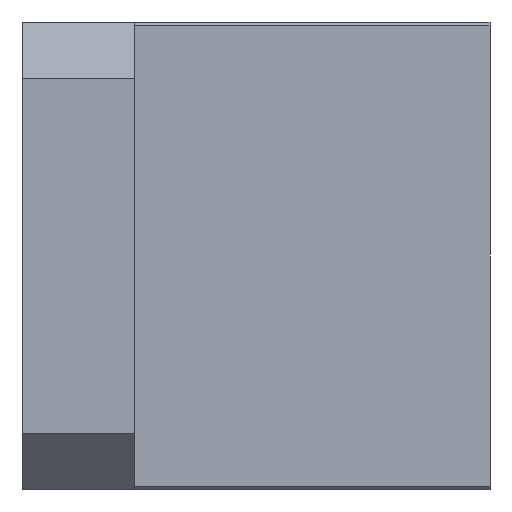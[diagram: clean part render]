
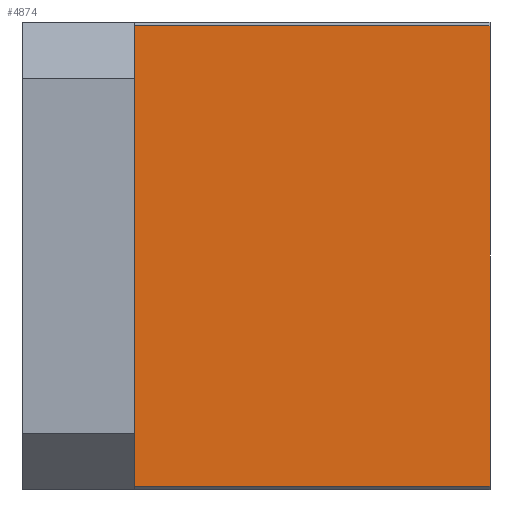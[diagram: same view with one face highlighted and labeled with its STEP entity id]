
A CAD part, left-side view. The second image highlights one B-rep face of the part: STEP entity #4874.
In plain terms, the highlighted planar face has unit normal (-1, 0, 0).
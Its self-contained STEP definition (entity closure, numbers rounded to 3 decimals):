
#356 = VERTEX_POINT ( 'NONE', #808 ) ;
#443 = VERTEX_POINT ( 'NONE', #10985 ) ;
#453 = ORIENTED_EDGE ( 'NONE', *, *, #6781, .T. ) ;
#502 = DIRECTION ( 'NONE',  ( 1., 0., 0. ) ) ;
#648 = DIRECTION ( 'NONE',  ( 0., 0., 1. ) ) ;
#808 = CARTESIAN_POINT ( 'NONE',  ( 32.526, -6.106, 12.3 ) ) ;
#913 = CARTESIAN_POINT ( 'NONE',  ( 32.526, -6.106, -12.3 ) ) ;
#1206 = CARTESIAN_POINT ( 'NONE',  ( 32.526, 12.894, 12.3 ) ) ;
#1207 = VECTOR ( 'NONE', #648, 1000. ) ;
#1676 = VERTEX_POINT ( 'NONE', #1206 ) ;
#1857 = AXIS2_PLACEMENT_3D ( 'NONE', #5928, #502, #6844 ) ;
#2895 = DIRECTION ( 'NONE',  ( 0., 0., -1. ) ) ;
#3039 = EDGE_CURVE ( 'NONE', #6138, #356, #6050, .T. ) ;
#3777 = DIRECTION ( 'NONE',  ( 0., 1., 0. ) ) ;
#4156 = ORIENTED_EDGE ( 'NONE', *, *, #3039, .T. ) ;
#4874 = ADVANCED_FACE ( 'NONE', ( #8378 ), #10461, .F. ) ;
#5167 = DIRECTION ( 'NONE',  ( 0., 1., 0. ) ) ;
#5641 = ORIENTED_EDGE ( 'NONE', *, *, #6505, .T. ) ;
#5928 = CARTESIAN_POINT ( 'NONE',  ( 32.526, -6.106, 12.3 ) ) ;
#6050 = LINE ( 'NONE', #10616, #1207 ) ;
#6138 = VERTEX_POINT ( 'NONE', #913 ) ;
#6284 = LINE ( 'NONE', #8366, #11153 ) ;
#6436 = CARTESIAN_POINT ( 'NONE',  ( 32.526, 3.394, -12.3 ) ) ;
#6505 = EDGE_CURVE ( 'NONE', #356, #1676, #9183, .T. ) ;
#6781 = EDGE_CURVE ( 'NONE', #1676, #443, #6284, .T. ) ;
#6844 = DIRECTION ( 'NONE',  ( 0., 0., -1. ) ) ;
#6855 = VECTOR ( 'NONE', #3777, 1000. ) ;
#8366 = CARTESIAN_POINT ( 'NONE',  ( 32.526, 12.894, 0. ) ) ;
#8378 = FACE_OUTER_BOUND ( 'NONE', #9632, .T. ) ;
#8466 = ORIENTED_EDGE ( 'NONE', *, *, #11233, .F. ) ;
#9183 = LINE ( 'NONE', #9734, #11313 ) ;
#9632 = EDGE_LOOP ( 'NONE', ( #8466, #4156, #5641, #453 ) ) ;
#9734 = CARTESIAN_POINT ( 'NONE',  ( 32.526, 3.394, 12.3 ) ) ;
#10461 = PLANE ( 'NONE',  #1857 ) ;
#10616 = CARTESIAN_POINT ( 'NONE',  ( 32.526, -6.106, 0. ) ) ;
#10985 = CARTESIAN_POINT ( 'NONE',  ( 32.526, 12.894, -12.3 ) ) ;
#11153 = VECTOR ( 'NONE', #2895, 1000. ) ;
#11233 = EDGE_CURVE ( 'NONE', #6138, #443, #11741, .T. ) ;
#11313 = VECTOR ( 'NONE', #5167, 1000. ) ;
#11741 = LINE ( 'NONE', #6436, #6855 ) ;
